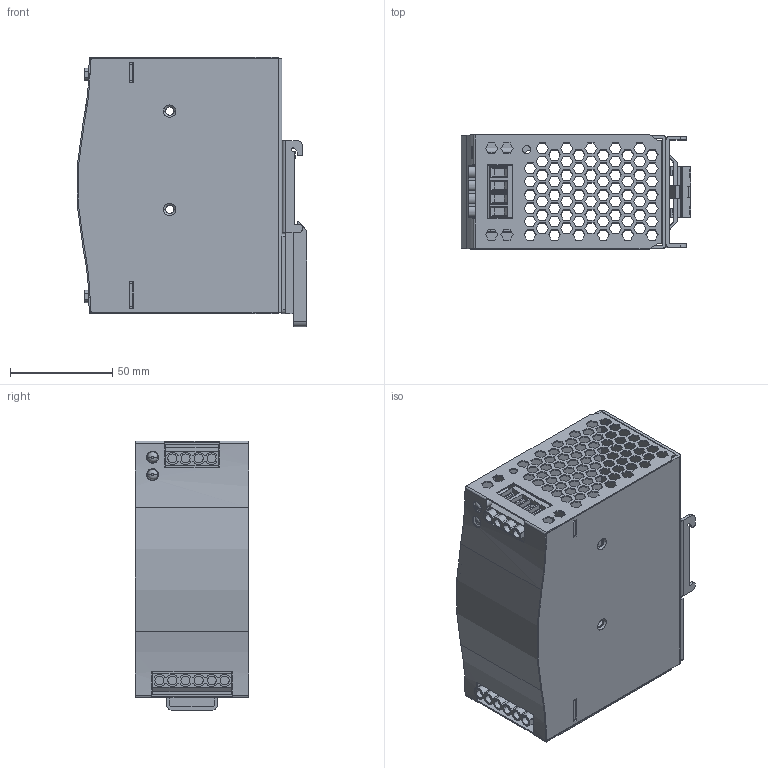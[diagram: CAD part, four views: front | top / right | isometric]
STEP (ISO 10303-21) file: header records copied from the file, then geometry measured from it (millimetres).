
FILE_DESCRIPTION(('Creo Elements/Direct Modeling STEP Export'),'2;1');
FILE_NAME('DR-RDN20.stp','2018-01-30T15:54:28',(''),(''),'PTC Creo Elements/Direct Modeling STEP processor for AP214 (Solid Model)','PTC Creo Elements/Direct Modeling 19.0 09-May-2014 (C) Parametric Technology GmbH','');
FILE_SCHEMA(('AUTOMOTIVE_DESIGN { 1 0 10303 214 1 1 1 1 }'));
Length unit declared in the file: millimetre
Products named in the file (8): P1.PRT; _X2_639B5EA7_X0_.PRT; PCB.PRT; DR-RDN20_1.ASM; P1_1.PRT; P1.PRT.1; a1; DR-RDN20.stp
Assembly tree (7 placements, depth 3):
  DR-RDN20.stp
    a1
      P1.PRT.1
      P1_1.PRT
    DR-RDN20_1.ASM
      PCB.PRT
      _X2_639B5EA7_X0_.PRT
      P1.PRT
Bounding box: 111.83 x 55.5 x 131.61 mm (x, y, z)
Volume: 80018.4 mm3; surface area: 123137.1 mm2
Topology: 4 solids, 4 shells, 1687 faces, 4972 edges, 3283 vertices
Faces by surface type: plane 1459, cylinder 186, cone 22, torus 20
Entity records: 56614 total; most frequent: CARTESIAN_POINT 10119, ORIENTED_EDGE 9944, DIRECTION 8685, EDGE_CURVE 4972, VECTOR 4495, LINE 4495, VERTEX_POINT 3283, EDGE_LOOP 2103
